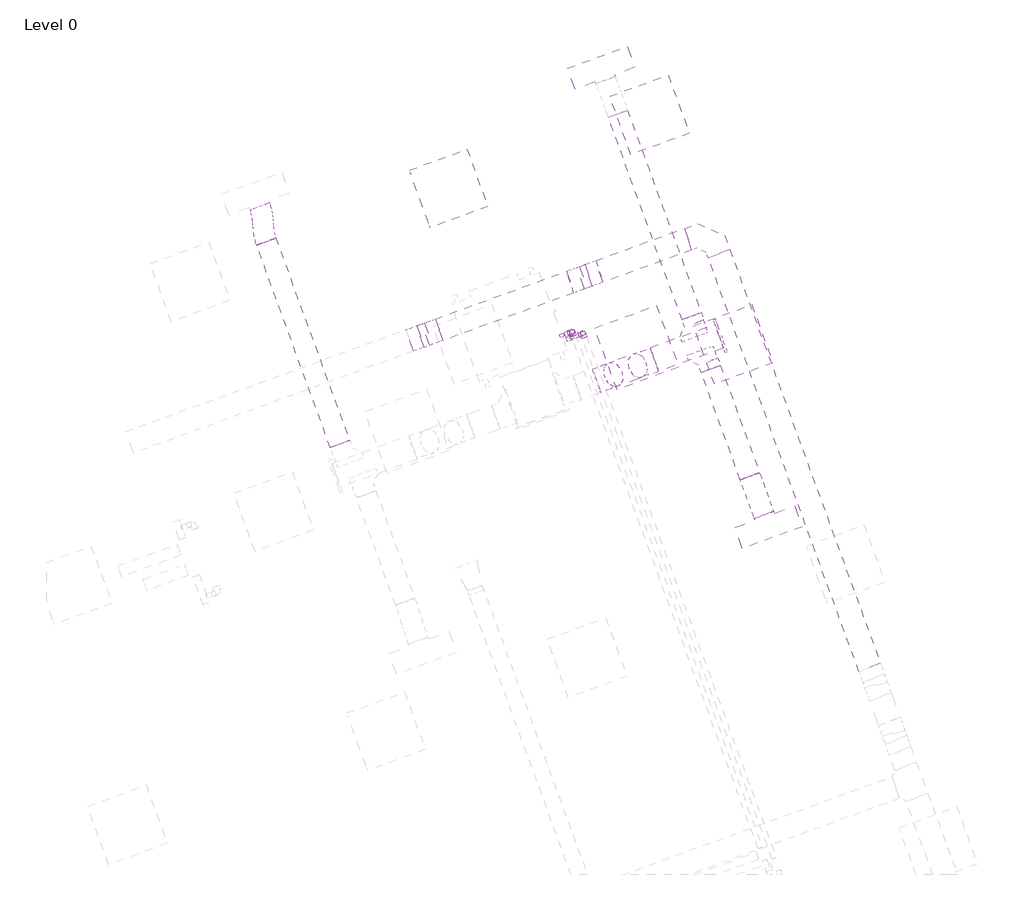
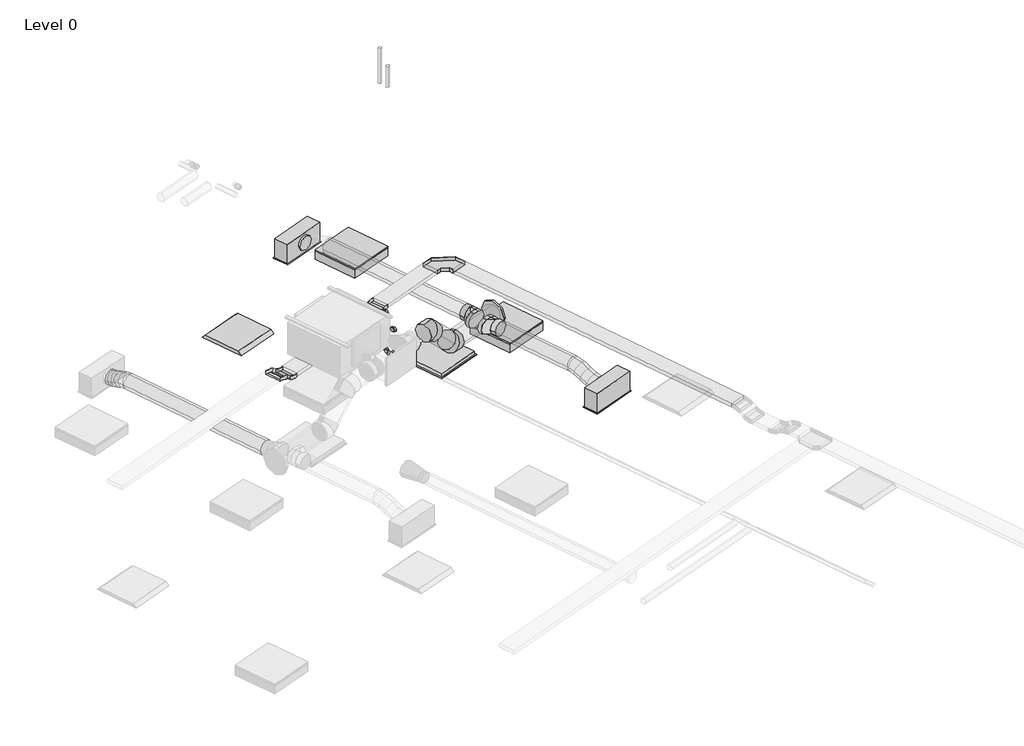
# One storey, part 33 of 34: 7 duct segments, 6 pipe fittings, 6 pipe segments, 5 cable carrier fittings, 5 cable carrier segments, 5 duct fittings, 3 air terminals, 3 light fixtures.
"""IFC4 building model written with IfcOpenShell, lengths in millimetres."""

from ifc_helpers import new_model, si_unit, point, frame, frame_2d, origin, place, context, project, spatial, polyline, circle_curve, ellipse_curve, trimmed, segment, composite_curve, outline, extrude, transform, mapped, element, save
from ifc_brep_helpers import plane_surface, cylinder_surface, advanced_brep
from components import return_grille_rectangular_hosted_standard_7b12617c, supply_diffuser_with_plenum_linear_slot_hosted_8c379eed, cable_tray_horizontal_bend_standard_fd552271, cable_tray_vertical_inside_bend_standard_9a66f55b, cable_tray_vertical_outside_bend_standard_4df2047e, dw144_round_blank_end_standard_e3d0b58b, dw144_round_segmented_bend_slip_joint_standard_636bd9c1, dw144_round_shoe_branch_slip_joint1_standard_2_15a2edd8, light_fixture_b730b5ca, troffer_light_2x2_parabolic_2_x2_2_lamp_120v_6a063ff3, elbow_threaded_gmi_standard_b4aa7741, socket_reducing_threaded_gmi_standard_0a4076b8

model = new_model("IFC4")

# Units and contexts
model_context = context("Model", 3, world=origin())
ifc_project = project(units=[si_unit("LENGTHUNIT", "METRE", prefix="MILLI")], contexts=[model_context])

# Site, building, storey
site = spatial("IfcSite", under=ifc_project)
building = spatial("IfcBuilding", under=site)
storey = spatial("IfcBuildingStorey", under=building, Name="Level 0", Elevation=0.0)

# Air terminals
placement = place(None, origin())
return_grille_rectangular_hosted_standard_shape = return_grille_rectangular_hosted_standard_7b12617c(model_context)
element("IfcAirTerminal", 1, ObjectType="Return Grille - Rectangular - Hosted : Standard", at=placement, inside=storey, context=model_context, shape_type="MappedRepresentation", body=[
    mapped(return_grille_rectangular_hosted_standard_shape, transform((59670.7999959, 22099.2481143, 2800.0), x_axis=(0.939692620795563, 0.34202014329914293, 0.0), y_axis=(0.34202014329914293, -0.939692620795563, 0.0), z_axis=(0.0, 0.0, -1.0))),
])
supply_diffuser_with_plenum_linear_slot_hosted_shape = supply_diffuser_with_plenum_linear_slot_hosted_8c379eed(model_context)
element("IfcAirTerminal", 2, ObjectType="Supply Diffuser with Plenum - Linear Slot - Hosted : 24\" x 8\"-200 In Inlet  4-Slot", at=placement, inside=storey, context=model_context, shape_type="MappedRepresentation", body=[
    mapped(supply_diffuser_with_plenum_linear_slot_hosted_shape, transform((59322.1555846, 24845.631912, 2800.0), x_axis=(-0.9396926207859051, -0.3420201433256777, 0.0), y_axis=(-0.3420201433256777, 0.9396926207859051, 0.0), z_axis=(0.0, 0.0, -1.0))),
])
element("IfcAirTerminal", 3, ObjectType="Supply Diffuser with Plenum - Linear Slot - Hosted : 24\" x 8\"-200 In Inlet  4-Slot", at=placement, inside=storey, context=model_context, shape_type="MappedRepresentation", body=[
    mapped(supply_diffuser_with_plenum_linear_slot_hosted_shape, transform((60963.8522726, 20335.1073322, 2800.0), x_axis=(0.939692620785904, 0.342020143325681, 0.0), y_axis=(0.342020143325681, -0.939692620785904, 0.0), z_axis=(0.0, 0.0, -1.0))),
])

# Cable carrier fittings
cable_tray_horizontal_bend_standard_shape = cable_tray_horizontal_bend_standard_fd552271(model_context)
element("IfcCableCarrierFitting", 4, ObjectType="Cable Tray Horizontal Bend : Standard", at=placement, inside=storey, context=model_context, shape_type="MappedRepresentation", body=[
    mapped(cable_tray_horizontal_bend_standard_shape, transform((60397.5181523, 23244.3261172, 3248.9627355), x_axis=(-0.3420201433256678, 0.9396926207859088, 0.0), y_axis=(-0.9396926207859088, -0.3420201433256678, 0.0), z_axis=(0.0, 0.0, 1.0))),
])
cable_tray_vertical_inside_bend_standard_shape = cable_tray_vertical_inside_bend_standard_9a66f55b(model_context)
element("IfcCableCarrierFitting", 5, ObjectType="Cable Tray Vertical Inside Bend : Standard", at=placement, inside=storey, context=model_context, shape_type="MappedRepresentation", body=[
    mapped(cable_tray_vertical_inside_bend_standard_shape, transform((59079.7468169, 22764.6965755, 3148.9627355), x_axis=(0.9396926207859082, 0.34202014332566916, 0.0), y_axis=(0.0, 0.0, 1.0), z_axis=(0.34202014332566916, -0.9396926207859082, 0.0))),
])
element("IfcCableCarrierFitting", 6, ObjectType="Cable Tray Vertical Inside Bend : Standard", at=placement, inside=storey, context=model_context, shape_type="MappedRepresentation", body=[
    mapped(cable_tray_vertical_inside_bend_standard_shape, transform((57668.2710843, 22250.9614225, 3148.9627355), x_axis=(0.8137976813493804, 0.2961981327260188, -0.4999999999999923), y_axis=(0.46984631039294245, 0.1710100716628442, 0.8660254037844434), z_axis=(0.34202014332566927, -0.9396926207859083, 0.0))),
])
cable_tray_vertical_outside_bend_standard_shape = cable_tray_vertical_outside_bend_standard_4df2047e(model_context)
element("IfcCableCarrierFitting", 7, ObjectType="Cable Tray Vertical Outside Bend : Standard", at=placement, inside=storey, context=model_context, shape_type="MappedRepresentation", body=[
    mapped(cable_tray_vertical_outside_bend_standard_shape, transform((59242.5063531, 22823.9362021, 3248.9627355), x_axis=(-0.939692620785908, -0.34202014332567, 0.0), y_axis=(0.0, 0.0, -1.0000000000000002), z_axis=(0.34202014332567, -0.939692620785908, 0.0))),
])
element("IfcCableCarrierFitting", 8, ObjectType="Cable Tray Vertical Outside Bend : Standard", at=placement, inside=storey, context=model_context, shape_type="MappedRepresentation", body=[
    mapped(cable_tray_vertical_outside_bend_standard_shape, transform((57505.5115481, 22191.721796, 3248.9627355), x_axis=(-0.8137976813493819, -0.2961981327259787, 0.5000000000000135), y_axis=(-0.46984631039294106, -0.17101007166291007, -0.866025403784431), z_axis=(0.34202014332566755, -0.9396926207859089, 0.0))),
])

# Cable carrier segments
element("IfcCableCarrierSegment", 9, ObjectType="Perforated Cable Tray", at=placement, inside=storey, context=model_context, shape_type="SweptSolid", body=[
    extrude(outline(polyline([(62063.4626623, 18996.1091889), (61852.0318226, 18919.1546567), (60373.0325165, 22982.6718536), (60584.4633562, 23059.6263859), (62063.4626623, 18996.1091889)])), frame((0.0, 0.0, 3223.9627355), z_axis=(0.0, 0.0, 1.0), x_axis=(1.0, 0.0, 0.0)), (0.0, 0.0, 1.0), 50.0),
])
element("IfcCableCarrierSegment", 10, ObjectType="Perforated Cable Tray", at=placement, inside=storey, context=model_context, shape_type="SweptSolid", body=[
    extrude(outline(polyline([(60135.8638887, 23268.811753), (60212.818421, 23057.3809133), (59343.931089, 22741.1317875), (59266.9765567, 22952.5626272), (60135.8638887, 23268.811753)])), frame((0.0, 0.0, 3223.9627355), z_axis=(0.0, 0.0, 1.0), x_axis=(1.0, 0.0, 0.0)), (0.0, 0.0, 1.0), 50.0),
])
element("IfcCableCarrierSegment", 11, ObjectType="Perforated Cable Tray", at=placement, inside=storey, context=model_context, shape_type="SweptSolid", body=[
    extrude(outline(polyline([(0.0, -225.0), (0.0, 0.0), (66.0254038, 0.0), (66.0254037, -225.0), (0.0, -225.0)])), frame((59238.2156691, 22702.6545214, 3193.8184513), z_axis=(-0.46984631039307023, -0.1710100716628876, 0.8660254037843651), x_axis=(-0.8137976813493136, -0.29619813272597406, -0.5000000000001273)), (0.0, 0.0, 1.0), 50.0),
])
element("IfcCableCarrierSegment", 12, ObjectType="Perforated Cable Tray", at=placement, inside=storey, context=model_context, shape_type="SweptSolid", body=[
    extrude(outline(polyline([(58978.322081, 22847.5009901), (59055.2766133, 22636.0701504), (57769.6958202, 22168.157008), (57692.7412879, 22379.5878476), (58978.322081, 22847.5009901)])), frame((0.0, 0.0, 3123.9627355), z_axis=(0.0, 0.0, 1.0), x_axis=(1.0, 0.0, 0.0)), (0.0, 0.0, 1.0), 50.0),
])
element("IfcCableCarrierSegment", 13, ObjectType="Perforated Cable Tray", at=placement, inside=storey, context=model_context, shape_type="SweptSolid", body=[
    extrude(outline(polyline([(0.0, -224.9999999), (0.0, 0.0), (66.0254038, 1e-07), (66.0254038, -224.9999999), (0.0, -224.9999999)])), frame((57640.4880848, 22121.1292383, 3160.8057494), z_axis=(0.4698463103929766, 0.17101007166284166, 0.8660254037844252), x_axis=(-0.8137976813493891, -0.29619813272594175, 0.5000000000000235)), (0.0, 0.0, 1.0), 50.0),
])

# Duct fittings
dw144_round_blank_end_standard_shape = dw144_round_blank_end_standard_e3d0b58b(model_context)
element("IfcDuctFitting", 14, ObjectType="DW144 Round Blank End : Standard", at=placement, inside=storey, context=model_context, shape_type="MappedRepresentation", body=[
    mapped(dw144_round_blank_end_standard_shape, transform((60480.1698786, 22212.391139, 3072.2088531), x_axis=(0.9396926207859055, 0.3420201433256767, 0.0), y_axis=(-0.3420201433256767, 0.9396926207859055, 0.0), z_axis=(0.0, 0.0, 1.0))),
])
dw144_round_segmented_bend_slip_joint_standard_shape = dw144_round_segmented_bend_slip_joint_standard_636bd9c1(model_context)
element("IfcDuctFitting", 15, ObjectType="DW144 Round Segmented Bend - Slip Joint : Standard", at=placement, inside=storey, context=model_context, shape_type="MappedRepresentation", body=[
    mapped(dw144_round_segmented_bend_slip_joint_standard_shape, transform((59747.3782824, 21945.6768101, 3072.2088531), x_axis=(0.6644630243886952, 0.24184476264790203, -0.7071067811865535), y_axis=(0.6644630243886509, 0.2418447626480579, 0.7071067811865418), z_axis=(0.3420201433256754, -0.939692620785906, 0.0))),
])
element("IfcDuctFitting", 16, ObjectType="DW144 Round Segmented Bend - Slip Joint : Standard", at=placement, inside=storey, context=model_context, shape_type="MappedRepresentation", body=[
    mapped(dw144_round_segmented_bend_slip_joint_standard_shape, transform((59373.9762464, 21809.7695836, 3469.575), x_axis=(0.9396926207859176, 0.3420201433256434, 0.0), y_axis=(0.0, 0.0, -1.0), z_axis=(-0.3420201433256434, 0.9396926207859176, 0.0))),
])
dw144_round_shoe_branch_slip_joint1_standard_2_shape = dw144_round_shoe_branch_slip_joint1_standard_2_15a2edd8(model_context)
element("IfcDuctFitting", 17, ObjectType="DW144 Round Shoe Branch - Slip Joint1 : Standard 2", at=placement, inside=storey, context=model_context, shape_type="MappedRepresentation", body=[
    mapped(dw144_round_shoe_branch_slip_joint1_standard_2_shape, transform((60261.1722773, 22265.7047523, 3072.2088531), x_axis=(-0.3420201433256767, 0.9396926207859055, 0.0), y_axis=(0.9396926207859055, 0.3420201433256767, 0.0), z_axis=(0.0, 0.0, -1.0))),
])
element("IfcDuctFitting", 18, ObjectType="DW144 Round Shoe Branch - Slip Joint1 : Standard 2", at=placement, inside=storey, context=model_context, shape_type="MappedRepresentation", body=[
    mapped(dw144_round_shoe_branch_slip_joint1_standard_2_shape, transform((60346.6773131, 22030.7815971, 3072.2088531), x_axis=(0.3420201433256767, -0.9396926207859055, 0.0), y_axis=(0.9396926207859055, 0.3420201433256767, 0.0), z_axis=(0.0, 0.0, 1.0))),
])

# Duct segments
element("IfcDuctSegment", 19, ObjectType="DW144 Segmented Bend / Shoe Branch", at=placement, inside=storey, context=model_context, shape_type="SweptSolid", body=[
    extrude(outline(composite_curve([segment(trimmed(circle_curve(frame_2d((0.0, -125.0)), 125.0), [point((-125.0, -125.0))], [point((0.0, 0.0))], False, "CARTESIAN"), True, "CONTINUOUS"), segment(trimmed(circle_curve(frame_2d((0.0, -125.0)), 125.0), [point((0.0, 0.0))], [point((125.0, -125.0))], False, "CARTESIAN"), True, "CONTINUOUS"), segment(trimmed(circle_curve(frame_2d((0.0, -125.0)), 125.0), [point((125.0, -125.0))], [point((0.0, -250.0))], False, "CARTESIAN"), True, "CONTINUOUS"), segment(trimmed(circle_curve(frame_2d((0.0, -125.0)), 125.0), [point((0.0, -250.0))], [point((-125.0, -125.0))], False, "CARTESIAN"), True, "CONTINUOUS")], self_intersect=False)), frame((59844.6866394, 21981.0941556, 2947.2088531), z_axis=(0.9396926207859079, 0.3420201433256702, 0.0), x_axis=(0.3420201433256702, -0.9396926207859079, 0.0)), (0.0, 0.0, 1.0), 676.267138),
])
element("IfcDuctSegment", 20, ObjectType="DW144 Segmented Bend / Shoe Branch", at=placement, inside=storey, context=model_context, shape_type="SweptSolid", body=[
    extrude(outline(composite_curve([segment(trimmed(circle_curve(frame_2d((0.0, 100.0)), 100.0), [point((100.0, 100.0))], [point((0.0, 0.0))], False, "CARTESIAN"), True, "CONTINUOUS"), segment(trimmed(circle_curve(frame_2d((0.0, 100.0)), 100.0), [point((0.0, 0.0))], [point((-100.0, 100.0))], False, "CARTESIAN"), True, "CONTINUOUS"), segment(trimmed(circle_curve(frame_2d((0.0, 100.0)), 100.0), [point((-100.0, 100.0))], [point((0.0, 200.0))], False, "CARTESIAN"), True, "CONTINUOUS"), segment(trimmed(circle_curve(frame_2d((0.0, 100.0)), 100.0), [point((0.0, 200.0))], [point((100.0, 100.0))], False, "CARTESIAN"), True, "CONTINUOUS")], self_intersect=False)), frame((60209.8692558, 22406.6586454, 3172.2088531), z_axis=(-0.3420201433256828, 0.9396926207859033, 0.0), x_axis=(0.9396926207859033, 0.3420201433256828, 0.0)), (0.0, 0.0, 1.0), 2117.1993191),
])
element("IfcDuctSegment", 21, ObjectType="DW144 Segmented Bend / Shoe Branch", at=placement, inside=storey, context=model_context, shape_type="SweptSolid", body=[
    extrude(outline(composite_curve([segment(trimmed(circle_curve(frame_2d((0.0, -100.0)), 100.0), [point((-99.9999999, -100.0))], [point((0.0, 0.0))], False, "CARTESIAN"), True, "CONTINUOUS"), segment(trimmed(circle_curve(frame_2d((0.0, -100.0)), 100.0), [point((0.0, 0.0))], [point((100.0, -100.0))], False, "CARTESIAN"), True, "CONTINUOUS"), segment(trimmed(circle_curve(frame_2d((0.0, -100.0)), 100.0), [point((100.0, -100.0))], [point((0.0, -200.0))], False, "CARTESIAN"), True, "CONTINUOUS"), segment(trimmed(circle_curve(frame_2d((0.0, -100.0)), 100.0), [point((0.0, -200.0))], [point((-99.9999999, -100.0))], False, "CARTESIAN"), True, "CONTINUOUS")], self_intersect=False)), frame((60782.0007844, 20834.7401896, 2972.2088531), z_axis=(-0.3420201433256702, 0.9396926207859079, 0.0), x_axis=(0.9396926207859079, 0.3420201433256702, 0.0)), (0.0, 0.0, 1.0), 1122.8006809),
])
element("IfcDuctSegment", 22, ObjectType="DW144 Segmented Bend / Shoe Branch", at=placement, inside=storey, context=model_context, shape_type="SweptSolid", body=[
    extrude(outline(composite_curve([segment(trimmed(circle_curve(frame_2d((0.0, -100.0)), 100.0), [point((-100.0, -100.0))], [point((0.0, 0.0))], False, "CARTESIAN"), True, "CONTINUOUS"), segment(trimmed(circle_curve(frame_2d((0.0, -100.0)), 100.0), [point((0.0, 0.0))], [point((99.9999999, -100.0))], False, "CARTESIAN"), True, "CONTINUOUS"), segment(trimmed(circle_curve(frame_2d((0.0, -100.0)), 100.0), [point((99.9999999, -100.0))], [point((0.0, -200.0))], False, "CARTESIAN"), True, "CONTINUOUS"), segment(trimmed(circle_curve(frame_2d((0.0, -100.0)), 100.0), [point((0.0, -200.0))], [point((-100.0, -100.0))], False, "CARTESIAN"), True, "CONTINUOUS")], self_intersect=False)), frame((56758.4236669, 21150.4351859, 2972.2088531), z_axis=(-0.3420201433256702, 0.9396926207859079, 0.0), x_axis=(0.9396926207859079, 0.3420201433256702, 0.0)), (0.0, 0.0, 1.0), 2117.1993191),
])
element("IfcDuctSegment", 23, ObjectType="DW144 Segmented Bend / Shoe Branch", at=placement, inside=storey, context=model_context, shape_type="SweptSolid", body=[
    extrude(outline(composite_curve([segment(trimmed(circle_curve(frame_2d((0.0, -125.0)), 125.0), [point((57.2076922, -236.1408113))], [point((-111.1408114, -182.2076922))], False, "CARTESIAN"), True, "CONTINUOUS"), segment(trimmed(circle_curve(frame_2d((0.0, -125.0)), 125.0), [point((-111.1408114, -182.2076922))], [point((-57.2076923, -13.8591886))], False, "CARTESIAN"), True, "CONTINUOUS"), segment(trimmed(circle_curve(frame_2d((0.0, -125.0)), 125.0), [point((-57.2076923, -13.8591886))], [point((111.1408113, -67.7923077))], False, "CARTESIAN"), True, "CONTINUOUS"), segment(trimmed(circle_curve(frame_2d((0.0, -125.0)), 125.0), [point((111.1408113, -67.7923077))], [point((57.2076922, -236.1408113))], False, "CARTESIAN"), True, "CONTINUOUS")], self_intersect=False)), frame((59678.5708833, 22038.9065459, 3185.884105), z_axis=(-0.6644630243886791, -0.2418447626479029, 0.7071067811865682), x_axis=(0.7473211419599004, -0.21503058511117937, 0.6287073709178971)), (0.0, 0.0, 1.0), 354.8538129),
])
element("IfcDuctSegment", 24, ObjectType="Flex - Round", at=placement, inside=storey, context=model_context, shape_type="AdvancedBrep", body=[
    advanced_brep(
    [(60875.9700465, 20868.9422039, 3072.2088531), (60782.0007844, 20834.7401896, 2972.2088531), (60688.0315224, 20800.5381753, 3072.2088531), (60782.0007844, 20834.7401896, 3172.2088531), (60882.0280653, 20852.2979342, 3072.2088531), (60784.3796055, 20828.2044324, 2972.2088531), (60694.0895411, 20783.8939055, 3072.2088531), (60791.7380009, 20807.9874073, 3172.2088531), (61013.7351382, 20490.4357254, 2954.4), (60919.7658761, 20456.233711, 3054.4), (60825.796614, 20422.0316967, 2954.4), (60919.7658761, 20456.233711, 2854.4), (60910.9523954, 20772.8289904, 3053.8012198), (60806.8015614, 20766.600615, 2957.9393734), (60723.0138712, 20704.4249618, 3053.8012198), (60827.1647052, 20710.6533371, 3149.6630662), (60944.8525924, 20679.6889646, 3013.3044266), (60837.9473613, 20681.0282329, 2920.7329518), (60756.9140682, 20611.284936, 3013.3044266), (60863.8192992, 20609.9456677, 3105.8759013), (60978.7527894, 20586.5489389, 2972.8076333), (60874.6019553, 20580.3205635, 2876.9457869), (60790.8142652, 20518.1449102, 2972.8076333), (60894.9650992, 20524.3732856, 3068.6694797), (61007.6771194, 20507.0799951, 2954.4), (60910.0286597, 20482.9864933, 2854.4), (60819.7385953, 20438.6759664, 2954.4), (60917.387055, 20462.7694682, 3054.4)],
    [
        (0, 1, circle_curve(frame((60782.0007844, 20834.7401896, 3072.2088531), z_axis=(-0.3420201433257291, 0.9396926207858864, 0.0), x_axis=(0.9396926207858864, 0.3420201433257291, 0.0)), 100.0)),
        (1, 2, circle_curve(frame((60782.0007844, 20834.7401896, 3072.2088531), z_axis=(-0.3420201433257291, 0.9396926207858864, 0.0), x_axis=(0.9396926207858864, 0.3420201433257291, 0.0)), 100.0)),
        (2, 3, circle_curve(frame((60782.0007844, 20834.7401896, 3072.2088531), z_axis=(-0.3420201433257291, 0.9396926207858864, 0.0), x_axis=(0.9396926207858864, 0.3420201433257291, 0.0)), 100.0)),
        (3, 0, circle_curve(frame((60782.0007844, 20834.7401896, 3072.2088531), z_axis=(-0.3420201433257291, 0.9396926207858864, 0.0), x_axis=(0.9396926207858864, 0.3420201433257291, 0.0)), 100.0)),
        (0, 4),
        (4, 5, ellipse_curve(frame((60788.0588032, 20818.0959199, 3072.2088531), z_axis=(-0.34005825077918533, 0.9343023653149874, 0.1069554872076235), x_axis=(-0.03658093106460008, 0.10050528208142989, -0.9942638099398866)), 100.5769284, 100.0)),
        (5, 1),
        (5, 6, ellipse_curve(frame((60788.0588032, 20818.0959199, 3072.2088531), z_axis=(-0.34005825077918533, 0.9343023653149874, 0.1069554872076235), x_axis=(-0.03658093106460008, 0.10050528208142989, -0.9942638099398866)), 100.5769284, 100.0)),
        (6, 2),
        (6, 7, ellipse_curve(frame((60788.0588032, 20818.0959199, 3072.2088531), z_axis=(-0.34005825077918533, 0.9343023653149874, 0.1069554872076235), x_axis=(-0.03658093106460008, 0.10050528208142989, -0.9942638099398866)), 100.5769284, 100.0)),
        (7, 3),
        (7, 4, ellipse_curve(frame((60788.0588032, 20818.0959199, 3072.2088531), z_axis=(-0.34005825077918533, 0.9343023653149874, 0.1069554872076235), x_axis=(-0.03658093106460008, 0.10050528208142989, -0.9942638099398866)), 100.5769284, 100.0)),
        (8, 9, circle_curve(frame((60919.7658761, 20456.233711, 2954.4), z_axis=(0.3420201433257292, -0.9396926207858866, 0.0), x_axis=(0.9396926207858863, 0.34202014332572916, 0.0)), 100.0)),
        (9, 10, circle_curve(frame((60919.7658761, 20456.233711, 2954.4), z_axis=(0.3420201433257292, -0.9396926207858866, 0.0), x_axis=(0.9396926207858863, 0.34202014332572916, 0.0)), 100.0)),
        (10, 11, circle_curve(frame((60919.7658761, 20456.233711, 2954.4), z_axis=(0.3420201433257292, -0.9396926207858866, 0.0), x_axis=(0.9396926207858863, 0.34202014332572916, 0.0)), 100.0)),
        (11, 8, circle_curve(frame((60919.7658761, 20456.233711, 2954.4), z_axis=(0.3420201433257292, -0.9396926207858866, 0.0), x_axis=(0.9396926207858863, 0.34202014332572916, 0.0)), 100.0)),
        (4, 12),
        (12, 13, ellipse_curve(frame((60816.9831333, 20738.6269761, 3053.8012198), z_axis=(-0.32663313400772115, 0.897417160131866, 0.2965691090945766), x_axis=(-0.10143260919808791, 0.2786838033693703, -0.9550113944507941)), 100.3776991, 100.0)),
        (13, 5),
        (13, 14, ellipse_curve(frame((60816.9831333, 20738.6269761, 3053.8012198), z_axis=(-0.32663313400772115, 0.897417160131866, 0.2965691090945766), x_axis=(-0.10143260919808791, 0.2786838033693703, -0.9550113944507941)), 100.3776991, 100.0)),
        (14, 6),
        (14, 15, ellipse_curve(frame((60816.9831333, 20738.6269761, 3053.8012198), z_axis=(-0.32663313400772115, 0.897417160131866, 0.2965691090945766), x_axis=(-0.10143260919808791, 0.2786838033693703, -0.9550113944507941)), 100.3776991, 100.0)),
        (15, 7),
        (15, 12, ellipse_curve(frame((60816.9831333, 20738.6269761, 3053.8012198), z_axis=(-0.32663313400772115, 0.897417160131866, 0.2965691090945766), x_axis=(-0.10143260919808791, 0.2786838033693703, -0.9550113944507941)), 100.3776991, 100.0)),
        (12, 16),
        (16, 17, circle_curve(frame((60850.8833303, 20645.4869503, 3013.3044266), z_axis=(-0.31661309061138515, 0.8698873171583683, 0.3782224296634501), x_axis=(0.939692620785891, 0.34202014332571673, 0.0)), 100.0)),
        (17, 13),
        (17, 18, circle_curve(frame((60850.8833303, 20645.4869503, 3013.3044266), z_axis=(-0.31661309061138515, 0.8698873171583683, 0.3782224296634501), x_axis=(0.939692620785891, 0.34202014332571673, 0.0)), 100.0)),
        (18, 14),
        (18, 19, circle_curve(frame((60850.8833303, 20645.4869503, 3013.3044266), z_axis=(-0.31661309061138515, 0.8698873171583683, 0.3782224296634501), x_axis=(0.939692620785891, 0.34202014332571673, 0.0)), 100.0)),
        (19, 15),
        (19, 16, circle_curve(frame((60850.8833303, 20645.4869503, 3013.3044266), z_axis=(-0.31661309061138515, 0.8698873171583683, 0.3782224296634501), x_axis=(0.939692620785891, 0.34202014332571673, 0.0)), 100.0)),
        (16, 20),
        (20, 21, ellipse_curve(frame((60884.7835273, 20552.3469245, 2972.8076333), z_axis=(-0.3266331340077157, 0.897417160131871, 0.29656910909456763), x_axis=(0.10143260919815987, -0.2786838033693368, 0.9550113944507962)), 100.3776991, 100.0)),
        (21, 17),
        (21, 22, ellipse_curve(frame((60884.7835273, 20552.3469245, 2972.8076333), z_axis=(-0.3266331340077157, 0.897417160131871, 0.29656910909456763), x_axis=(0.10143260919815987, -0.2786838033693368, 0.9550113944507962)), 100.3776991, 100.0)),
        (22, 18),
        (22, 23, ellipse_curve(frame((60884.7835273, 20552.3469245, 2972.8076333), z_axis=(-0.3266331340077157, 0.897417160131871, 0.29656910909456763), x_axis=(0.10143260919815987, -0.2786838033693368, 0.9550113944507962)), 100.3776991, 100.0)),
        (23, 19),
        (23, 20, ellipse_curve(frame((60884.7835273, 20552.3469245, 2972.8076333), z_axis=(-0.3266331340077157, 0.897417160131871, 0.29656910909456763), x_axis=(0.10143260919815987, -0.2786838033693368, 0.9550113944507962)), 100.3776991, 100.0)),
        (20, 24),
        (24, 25, ellipse_curve(frame((60913.7078574, 20472.8779808, 2954.4), z_axis=(-0.3400582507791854, 0.9343023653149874, 0.10695548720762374), x_axis=(0.03658093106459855, -0.10050528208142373, 0.9942638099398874)), 100.5769284, 100.0)),
        (25, 21),
        (25, 26, ellipse_curve(frame((60913.7078574, 20472.8779808, 2954.4), z_axis=(-0.3400582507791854, 0.9343023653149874, 0.10695548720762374), x_axis=(0.03658093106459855, -0.10050528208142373, 0.9942638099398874)), 100.5769284, 100.0)),
        (26, 22),
        (26, 27, ellipse_curve(frame((60913.7078574, 20472.8779808, 2954.4), z_axis=(-0.3400582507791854, 0.9343023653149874, 0.10695548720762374), x_axis=(0.03658093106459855, -0.10050528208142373, 0.9942638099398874)), 100.5769284, 100.0)),
        (27, 23),
        (27, 24, ellipse_curve(frame((60913.7078574, 20472.8779808, 2954.4), z_axis=(-0.3400582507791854, 0.9343023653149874, 0.10695548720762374), x_axis=(0.03658093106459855, -0.10050528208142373, 0.9942638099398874)), 100.5769284, 100.0)),
        (24, 8),
        (11, 25),
        (10, 26),
        (9, 27),
    ],
    [
        plane_surface(frame((60782.0007844, 20834.7401896, 2972.2088531), z_axis=(-0.3420201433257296, 0.9396926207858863, 0.0), x_axis=(0.9396926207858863, 0.3420201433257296, 0.0))),
        cylinder_surface(frame((60782.0007844, 20834.7401896, 3072.2088531), z_axis=(-0.3420201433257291, 0.9396926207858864, 0.0), x_axis=(0.9396926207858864, 0.3420201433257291, 0.0)), 100.0),
        plane_surface(frame((60919.7658761, 20456.233711, 2854.4), z_axis=(0.3420201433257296, -0.9396926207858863, 0.0), x_axis=(0.9396926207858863, 0.3420201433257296, 0.0))),
        cylinder_surface(frame((60788.0588032, 20818.0959199, 3072.2088531), z_axis=(-0.3341950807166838, 0.9181934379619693, 0.21268394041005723), x_axis=(0.9396926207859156, 0.342020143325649, 0.0)), 100.0),
        cylinder_surface(frame((60816.9831333, 20738.6269761, 3053.8012198), z_axis=(-0.31661309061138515, 0.8698873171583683, 0.3782224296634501), x_axis=(0.939692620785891, 0.34202014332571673, 0.0)), 100.0),
        cylinder_surface(frame((60850.8833303, 20645.4869503, 3013.3044266), z_axis=(-0.3166130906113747, 0.8698873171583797, 0.37822242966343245), x_axis=(0.9396926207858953, 0.3420201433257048, 0.0)), 100.0),
        cylinder_surface(frame((60884.7835273, 20552.3469245, 2972.8076333), z_axis=(-0.3341950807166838, 0.9181934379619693, 0.21268394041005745), x_axis=(0.9396926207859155, 0.3420201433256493, 0.0)), 100.0),
        cylinder_surface(frame((60913.7078574, 20472.8779808, 2954.4), z_axis=(-0.34202014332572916, 0.9396926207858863, 0.0), x_axis=(0.9396926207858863, 0.34202014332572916, 0.0)), 100.0),
    ],
    [
        (0, [[1, 2, 3, 4]]),
        (1, [[-1, 5, 6, 7]]),
        (1, [[-2, -7, 8, 9]]),
        (1, [[-3, -9, 10, 11]]),
        (1, [[-4, -11, 12, -5]]),
        (2, [[13, 14, 15, 16]]),
        (3, [[-6, 17, 18, 19]]),
        (3, [[-8, -19, 20, 21]]),
        (3, [[-10, -21, 22, 23]]),
        (3, [[-12, -23, 24, -17]]),
        (4, [[-18, 25, 26, 27]]),
        (4, [[-20, -27, 28, 29]]),
        (4, [[-22, -29, 30, 31]]),
        (4, [[-24, -31, 32, -25]]),
        (5, [[-26, 33, 34, 35]]),
        (5, [[-28, -35, 36, 37]]),
        (5, [[-30, -37, 38, 39]]),
        (5, [[-32, -39, 40, -33]]),
        (6, [[-34, 41, 42, 43]]),
        (6, [[-36, -43, 44, 45]]),
        (6, [[-38, -45, 46, 47]]),
        (6, [[-40, -47, 48, -41]]),
        (7, [[-42, 49, -16, 50]]),
        (7, [[-44, -50, -15, 51]]),
        (7, [[-46, -51, -14, 52]]),
        (7, [[-48, -52, -13, -49]]),
    ],
),
])
element("IfcDuctSegment", 25, ObjectType="Flex - Round", at=placement, inside=storey, context=model_context, shape_type="AdvancedBrep", body=[
    advanced_brep(
    [(55940.3295902, 23105.7497485, 3072.2088531), (56034.2988523, 23139.9517628, 2972.2088531), (56128.2681143, 23174.1537771, 3072.2088531), (56034.2988523, 23139.9517628, 3172.2088531), (55932.6991352, 23126.7142514, 3072.2088531), (56032.3145452, 23145.4036018, 2972.2088531), (56124.5004429, 23184.5053694, 3072.2088531), (56024.8850329, 23165.816019, 3172.2088531), (55878.3848809, 23455.0293673, 2954.4), (55972.354143, 23489.2313817, 3054.4), (56066.3234051, 23523.433396, 2954.4), (55972.354143, 23489.2313817, 2854.4), (55917.3295771, 23190.9348996, 3057.7411781), (56023.8255964, 23180.8740941, 2964.2180345), (56113.8382189, 23229.0567437, 3062.1722867), (56007.3421996, 23239.1175493, 3155.6954303), (55907.3100581, 23266.6974316, 3026.0114711), (56016.126005, 23239.0945077, 2939.8350497), (56105.4058666, 23292.8179241, 3035.4688025), (55996.5899197, 23320.4208481, 3121.645224), (55901.2471286, 23336.3652203, 2991.1400506), (56010.0630756, 23308.7622964, 2904.9636291), (56099.3429372, 23362.4857128, 3000.597382), (55990.5269903, 23390.0886367, 3086.7738035), (55892.8147764, 23400.1264007, 2964.4365665), (55999.3107957, 23390.0655952, 2870.9134228), (56089.3234182, 23438.2482449, 2968.867675), (55982.8273989, 23448.3090504, 3062.3908187), (55882.1525524, 23444.6777751, 2954.4), (55981.7679624, 23463.3671255, 2854.4), (56073.9538601, 23502.4688931, 2954.4), (55974.3384501, 23483.7795427, 3054.4)],
    [
        (0, 1, circle_curve(frame((56034.2988523, 23139.9517628, 3072.2088531), z_axis=(0.34202014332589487, -0.9396926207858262, 0.0), x_axis=(-0.9396926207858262, -0.34202014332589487, 0.0)), 100.0)),
        (1, 2, circle_curve(frame((56034.2988523, 23139.9517628, 3072.2088531), z_axis=(0.34202014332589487, -0.9396926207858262, 0.0), x_axis=(-0.9396926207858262, -0.34202014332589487, 0.0)), 100.0)),
        (2, 3, circle_curve(frame((56034.2988523, 23139.9517628, 3072.2088531), z_axis=(0.34202014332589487, -0.9396926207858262, 0.0), x_axis=(-0.9396926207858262, -0.34202014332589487, 0.0)), 100.0)),
        (3, 0, circle_curve(frame((56034.2988523, 23139.9517628, 3072.2088531), z_axis=(0.34202014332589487, -0.9396926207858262, 0.0), x_axis=(-0.9396926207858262, -0.34202014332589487, 0.0)), 100.0)),
        (0, 4),
        (4, 5, ellipse_curve(frame((56028.599789, 23155.6098104, 3072.2088531), z_axis=(0.2868145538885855, -0.9519007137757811, 0.10780743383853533), x_axis=(0.4718263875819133, 0.04242446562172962, -0.8806702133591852)), 100.746488, 100.0)),
        (5, 1),
        (5, 6, ellipse_curve(frame((56028.599789, 23155.6098104, 3072.2088531), z_axis=(0.2868145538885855, -0.9519007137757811, 0.10780743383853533), x_axis=(0.4718263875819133, 0.04242446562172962, -0.8806702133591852)), 100.746488, 100.0)),
        (6, 2),
        (6, 7, ellipse_curve(frame((56028.599789, 23155.6098104, 3072.2088531), z_axis=(0.2868145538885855, -0.9519007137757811, 0.10780743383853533), x_axis=(0.4718263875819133, 0.04242446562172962, -0.8806702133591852)), 100.746488, 100.0)),
        (7, 3),
        (7, 4, ellipse_curve(frame((56028.599789, 23155.6098104, 3072.2088531), z_axis=(0.2868145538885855, -0.9519007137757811, 0.10780743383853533), x_axis=(0.4718263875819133, 0.04242446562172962, -0.8806702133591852)), 100.746488, 100.0)),
        (8, 9, circle_curve(frame((55972.354143, 23489.2313817, 2954.4), z_axis=(-0.34202014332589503, 0.9396926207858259, 0.0), x_axis=(-0.9396926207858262, -0.3420201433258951, 0.0)), 100.0)),
        (9, 10, circle_curve(frame((55972.354143, 23489.2313817, 2954.4), z_axis=(-0.34202014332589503, 0.9396926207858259, 0.0), x_axis=(-0.9396926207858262, -0.3420201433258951, 0.0)), 100.0)),
        (10, 11, circle_curve(frame((55972.354143, 23489.2313817, 2954.4), z_axis=(-0.34202014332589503, 0.9396926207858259, 0.0), x_axis=(-0.9396926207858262, -0.3420201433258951, 0.0)), 100.0)),
        (11, 8, circle_curve(frame((55972.354143, 23489.2313817, 2954.4), z_axis=(-0.34202014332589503, 0.9396926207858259, 0.0), x_axis=(-0.9396926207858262, -0.3420201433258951, 0.0)), 100.0)),
        (4, 12),
        (12, 13, ellipse_curve(frame((56015.583898, 23209.9958217, 3059.9567324), z_axis=(0.1751260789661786, -0.9376352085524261, 0.30028498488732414), x_axis=(0.5236540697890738, -0.1695730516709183, -0.8348840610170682)), 100.5188435, 100.0)),
        (13, 5),
        (13, 14, ellipse_curve(frame((56015.583898, 23209.9958217, 3059.9567324), z_axis=(0.1751260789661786, -0.9376352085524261, 0.30028498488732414), x_axis=(0.5236540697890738, -0.1695730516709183, -0.8348840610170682)), 100.5188435, 100.0)),
        (14, 6),
        (14, 15, ellipse_curve(frame((56015.583898, 23209.9958217, 3059.9567324), z_axis=(0.1751260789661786, -0.9376352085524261, 0.30028498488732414), x_axis=(0.5236540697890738, -0.1695730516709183, -0.8348840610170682)), 100.5188435, 100.0)),
        (15, 7),
        (15, 12, ellipse_curve(frame((56015.583898, 23209.9958217, 3059.9567324), z_axis=(0.1751260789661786, -0.9376352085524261, 0.30028498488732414), x_axis=(0.5236540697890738, -0.1695730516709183, -0.8348840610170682)), 100.5188435, 100.0)),
        (12, 16),
        (16, 17, ellipse_curve(frame((56006.3579624, 23279.7576779, 3030.7401368), z_axis=(0.09941622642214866, -0.9042889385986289, 0.4151842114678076), x_axis=(0.5431382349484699, -0.30029372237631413, -0.7841074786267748)), 100.0802707, 100.0)),
        (17, 13),
        (17, 18, ellipse_curve(frame((56006.3579624, 23279.7576779, 3030.7401368), z_axis=(0.09941622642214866, -0.9042889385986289, 0.4151842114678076), x_axis=(0.5431382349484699, -0.30029372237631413, -0.7841074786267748)), 100.0802707, 100.0)),
        (18, 14),
        (18, 19, ellipse_curve(frame((56006.3579624, 23279.7576779, 3030.7401368), z_axis=(0.09941622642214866, -0.9042889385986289, 0.4151842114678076), x_axis=(0.5431382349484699, -0.30029372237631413, -0.7841074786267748)), 100.0802707, 100.0)),
        (19, 15),
        (19, 16, ellipse_curve(frame((56006.3579624, 23279.7576779, 3030.7401368), z_axis=(0.09941622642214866, -0.9042889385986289, 0.4151842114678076), x_axis=(0.5431382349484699, -0.30029372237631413, -0.7841074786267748)), 100.0802707, 100.0)),
        (16, 20),
        (20, 21, ellipse_curve(frame((56000.2950329, 23349.4254666, 2995.8687163), z_axis=(0.09941622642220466, -0.9042889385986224, 0.4151842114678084), x_axis=(-0.543138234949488, 0.3002937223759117, 0.7841074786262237)), 100.0802707, 100.0)),
        (21, 17),
        (21, 22, ellipse_curve(frame((56000.2950329, 23349.4254666, 2995.8687163), z_axis=(0.09941622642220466, -0.9042889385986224, 0.4151842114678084), x_axis=(-0.543138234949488, 0.3002937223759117, 0.7841074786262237)), 100.0802707, 100.0)),
        (22, 18),
        (22, 23, ellipse_curve(frame((56000.2950329, 23349.4254666, 2995.8687163), z_axis=(0.09941622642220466, -0.9042889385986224, 0.4151842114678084), x_axis=(-0.543138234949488, 0.3002937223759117, 0.7841074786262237)), 100.0802707, 100.0)),
        (23, 19),
        (23, 20, ellipse_curve(frame((56000.2950329, 23349.4254666, 2995.8687163), z_axis=(0.09941622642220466, -0.9042889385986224, 0.4151842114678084), x_axis=(-0.543138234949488, 0.3002937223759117, 0.7841074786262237)), 100.0802707, 100.0)),
        (20, 24),
        (24, 25, ellipse_curve(frame((55991.0690973, 23419.1873228, 2966.6521207), z_axis=(0.1751260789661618, -0.93763520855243, 0.3002849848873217), x_axis=(-0.5236540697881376, 0.16957305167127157, 0.8348840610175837)), 100.5188435, 100.0)),
        (25, 21),
        (25, 26, ellipse_curve(frame((55991.0690973, 23419.1873228, 2966.6521207), z_axis=(0.1751260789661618, -0.93763520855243, 0.3002849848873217), x_axis=(-0.5236540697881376, 0.16957305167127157, 0.8348840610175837)), 100.5188435, 100.0)),
        (26, 22),
        (26, 27, ellipse_curve(frame((55991.0690973, 23419.1873228, 2966.6521207), z_axis=(0.1751260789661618, -0.93763520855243, 0.3002849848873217), x_axis=(-0.5236540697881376, 0.16957305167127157, 0.8348840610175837)), 100.5188435, 100.0)),
        (27, 23),
        (27, 24, ellipse_curve(frame((55991.0690973, 23419.1873228, 2966.6521207), z_axis=(0.1751260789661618, -0.93763520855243, 0.3002849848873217), x_axis=(-0.5236540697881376, 0.16957305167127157, 0.8348840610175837)), 100.5188435, 100.0)),
        (24, 28),
        (28, 29, ellipse_curve(frame((55978.0532063, 23473.5733341, 2954.4), z_axis=(0.28681455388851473, -0.9519007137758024, 0.10780743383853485), x_axis=(-0.4718263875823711, -0.042424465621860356, 0.8806702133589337)), 100.746488, 100.0)),
        (29, 25),
        (29, 30, ellipse_curve(frame((55978.0532063, 23473.5733341, 2954.4), z_axis=(0.28681455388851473, -0.9519007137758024, 0.10780743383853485), x_axis=(-0.4718263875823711, -0.042424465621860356, 0.8806702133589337)), 100.746488, 100.0)),
        (30, 26),
        (30, 31, ellipse_curve(frame((55978.0532063, 23473.5733341, 2954.4), z_axis=(0.28681455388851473, -0.9519007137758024, 0.10780743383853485), x_axis=(-0.4718263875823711, -0.042424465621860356, 0.8806702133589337)), 100.746488, 100.0)),
        (31, 27),
        (31, 28, ellipse_curve(frame((55978.0532063, 23473.5733341, 2954.4), z_axis=(0.28681455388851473, -0.9519007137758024, 0.10780743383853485), x_axis=(-0.4718263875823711, -0.042424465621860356, 0.8806702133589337)), 100.746488, 100.0)),
        (28, 8),
        (11, 29),
        (10, 30),
        (9, 31),
    ],
    [
        plane_surface(frame((56034.2988523, 23139.9517628, 3172.2088531), z_axis=(0.3420201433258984, -0.9396926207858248, 0.0), x_axis=(0.9396926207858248, 0.3420201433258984, 0.0))),
        cylinder_surface(frame((56034.2988523, 23139.9517628, 3072.2088531), z_axis=(0.34202014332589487, -0.9396926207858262, 0.0), x_axis=(-0.9396926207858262, -0.34202014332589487, 0.0)), 100.0),
        plane_surface(frame((55972.354143, 23489.2313817, 3054.4), z_axis=(-0.3420201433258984, 0.9396926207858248, 0.0), x_axis=(0.9396926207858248, 0.3420201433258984, 0.0))),
        cylinder_surface(frame((56028.599789, 23155.6098104, 3072.2088531), z_axis=(0.2273586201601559, -0.9500024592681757, 0.21401725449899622), x_axis=(-0.9718455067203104, -0.23530883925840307, -0.012085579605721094)), 100.0),
        cylinder_surface(frame((56015.583898, 23209.9958217, 3059.9567324), z_axis=(0.12108565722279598, -0.9155884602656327, 0.3834527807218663), x_axis=(-0.9882405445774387, -0.1475288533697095, -0.04019780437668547)), 100.0),
        cylinder_surface(frame((56006.3579624, 23279.7576779, 3030.7401368), z_axis=(0.07758731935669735, -0.89153882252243, 0.4462496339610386), x_axis=(-0.9919133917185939, -0.11412067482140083, -0.055536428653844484)), 100.0),
        cylinder_surface(frame((56000.2950329, 23349.4254666, 2995.8687163), z_axis=(0.12108565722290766, -0.9155884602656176, 0.38345278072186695), x_axis=(-0.9882405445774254, -0.14752885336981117, -0.04019780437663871)), 100.0),
        cylinder_surface(frame((55991.0690973, 23419.1873228, 2966.6521207), z_axis=(0.22735862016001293, -0.9500024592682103, 0.2140172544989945), x_axis=(-0.9718455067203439, -0.2353088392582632, -0.012085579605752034)), 100.0),
        cylinder_surface(frame((55978.0532063, 23473.5733341, 2954.4), z_axis=(0.3420201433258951, -0.9396926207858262, 0.0), x_axis=(-0.9396926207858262, -0.3420201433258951, 0.0)), 100.0),
    ],
    [
        (0, [[1, 2, 3, 4]]),
        (1, [[-1, 5, 6, 7]]),
        (1, [[-2, -7, 8, 9]]),
        (1, [[-3, -9, 10, 11]]),
        (1, [[-4, -11, 12, -5]]),
        (2, [[13, 14, 15, 16]]),
        (3, [[-6, 17, 18, 19]]),
        (3, [[-8, -19, 20, 21]]),
        (3, [[-10, -21, 22, 23]]),
        (3, [[-12, -23, 24, -17]]),
        (4, [[-18, 25, 26, 27]]),
        (4, [[-20, -27, 28, 29]]),
        (4, [[-22, -29, 30, 31]]),
        (4, [[-24, -31, 32, -25]]),
        (5, [[-26, 33, 34, 35]]),
        (5, [[-28, -35, 36, 37]]),
        (5, [[-30, -37, 38, 39]]),
        (5, [[-32, -39, 40, -33]]),
        (6, [[-34, 41, 42, 43]]),
        (6, [[-36, -43, 44, 45]]),
        (6, [[-38, -45, 46, 47]]),
        (6, [[-40, -47, 48, -41]]),
        (7, [[-42, 49, 50, 51]]),
        (7, [[-44, -51, 52, 53]]),
        (7, [[-46, -53, 54, 55]]),
        (7, [[-48, -55, 56, -49]]),
        (8, [[-50, 57, -16, 58]]),
        (8, [[-52, -58, -15, 59]]),
        (8, [[-54, -59, -14, 60]]),
        (8, [[-56, -60, -13, -57]]),
    ],
),
])

# Light fixtures
light_fixture_shape = light_fixture_b730b5ca(model_context)
element("IfcLightFixture", 26, ObjectType="ELEKTRA EM Recessed Lighting Fixture : 24\" x 24\" - 230", at=placement, inside=storey, context=model_context, shape_type="MappedRepresentation", body=[
    mapped(light_fixture_shape, transform((57645.6248068, 23277.6646168, 2800.0), x_axis=(0.9396926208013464, 0.34202014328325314, 0.0), y_axis=(0.34202014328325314, -0.9396926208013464, 0.0), z_axis=(0.0, 0.0, -1.0))),
])
troffer_light_2x2_parabolic_2_x2_2_lamp_120v_shape = troffer_light_2x2_parabolic_2_x2_2_lamp_120v_6a063ff3(model_context)
element("IfcLightFixture", 27, ObjectType="Troffer Light - 2x2 Parabolic : 2'x2'(2 Lamp) - 120V", at=placement, inside=storey, context=model_context, shape_type="MappedRepresentation", body=[
    mapped(troffer_light_2x2_parabolic_2_x2_2_lamp_120v_shape, transform((59900.8870967, 24098.5129607, 2800.0), x_axis=(0.9396926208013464, 0.34202014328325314, 0.0), y_axis=(0.34202014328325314, -0.9396926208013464, 0.0), z_axis=(0.0, 0.0, -1.0))),
])
element("IfcLightFixture", 28, ObjectType="Troffer Light - 2x2 Parabolic : 2'x2'(2 Lamp) - 120V", at=placement, inside=storey, context=model_context, shape_type="MappedRepresentation", body=[
    mapped(troffer_light_2x2_parabolic_2_x2_2_lamp_120v_shape, transform((60721.7354406, 21843.2506708, 2800.0), x_axis=(0.9396926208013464, 0.34202014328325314, 0.0), y_axis=(0.34202014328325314, -0.9396926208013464, 0.0), z_axis=(0.0, 0.0, -1.0))),
])

# Pipe fittings
elbow_threaded_gmi_standard_shape = elbow_threaded_gmi_standard_b4aa7741(model_context)
element("IfcPipeFitting", 29, ObjectType="Elbow - Threaded - GMI : Standard", at=placement, inside=storey, context=model_context, shape_type="MappedRepresentation", body=[
    mapped(elbow_threaded_gmi_standard_shape, transform((59037.2475079, 22254.3390863, 3000.0), x_axis=(-0.3420201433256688, 0.9396926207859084, 0.0), y_axis=(0.0, 0.0, 1.0), z_axis=(0.9396926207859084, 0.3420201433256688, 0.0))),
])
element("IfcPipeFitting", 30, ObjectType="Elbow - Threaded - GMI : Standard", at=placement, inside=storey, context=model_context, shape_type="MappedRepresentation", body=[
    mapped(elbow_threaded_gmi_standard_shape, transform((59037.2475079, 22254.3390863, 3596.575), x_axis=(0.9396926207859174, 0.3420201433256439, 0.0), y_axis=(0.0, 0.0, -1.0), z_axis=(-0.3420201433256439, 0.9396926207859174, 0.0))),
])
element("IfcPipeFitting", 31, ObjectType="Elbow - Threaded - GMI : Standard", at=placement, inside=storey, context=model_context, shape_type="MappedRepresentation", body=[
    mapped(elbow_threaded_gmi_standard_shape, transform((59142.7353246, 22238.6732807, 2925.0), x_axis=(-0.34202014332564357, 0.9396926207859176, 0.0), y_axis=(0.0, 0.0, 1.0000000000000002), z_axis=(0.9396926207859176, 0.34202014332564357, 0.0))),
])
element("IfcPipeFitting", 32, ObjectType="Elbow - Threaded - GMI : Standard", at=placement, inside=storey, context=model_context, shape_type="MappedRepresentation", body=[
    mapped(elbow_threaded_gmi_standard_shape, transform((59142.7353246, 22238.6732807, 3317.175), x_axis=(0.9396926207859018, 0.342020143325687, 0.0), y_axis=(0.0, 0.0, -1.0), z_axis=(-0.342020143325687, 0.9396926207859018, 0.0))),
])
socket_reducing_threaded_gmi_standard_shape = socket_reducing_threaded_gmi_standard_0a4076b8(model_context)
element("IfcPipeFitting", 33, ObjectType="Socket Reducing - Threaded - GMI : Standard", at=placement, inside=storey, context=model_context, shape_type="MappedRepresentation", body=[
    mapped(socket_reducing_threaded_gmi_standard_shape, transform((58976.7003958, 22177.9268039, 3317.175), x_axis=(0.9396926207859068, 0.34202014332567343, 0.0), y_axis=(-0.34202014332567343, 0.9396926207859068, 0.0), z_axis=(0.0, 0.0, 1.0))),
])
element("IfcPipeFitting", 34, ObjectType="Socket Reducing - Threaded - GMI : Standard", at=placement, inside=storey, context=model_context, shape_type="MappedRepresentation", body=[
    mapped(socket_reducing_threaded_gmi_standard_shape, transform((58959.3257725, 22225.6631891, 3596.575), x_axis=(0.9396926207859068, 0.34202014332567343, 0.0), y_axis=(-0.34202014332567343, 0.9396926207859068, 0.0), z_axis=(0.0, 0.0, 1.0))),
])

# Pipe segments
element("IfcPipeSegment", 35, ObjectType="Carbon Steel - Threaded", at=placement, inside=storey, context=model_context, shape_type="SweptSolid", body=[
    extrude(outline(composite_curve([segment(trimmed(circle_curve(frame_2d((58935.8118339, 22217.4195202)), 21.45), [point((58914.3618339, 22217.4195202))], [point((58935.8118339, 22238.8695202))], False, "CARTESIAN"), True, "CONTINUOUS"), segment(trimmed(circle_curve(frame_2d((58935.8118339, 22217.4195202)), 21.45), [point((58935.8118339, 22238.8695202))], [point((58957.2618339, 22217.4195202))], False, "CARTESIAN"), True, "CONTINUOUS"), segment(trimmed(circle_curve(frame_2d((58935.8118339, 22217.4195202)), 21.45), [point((58957.2618339, 22217.4195202))], [point((58935.8118339, 22195.9695202))], False, "CARTESIAN"), True, "CONTINUOUS"), segment(trimmed(circle_curve(frame_2d((58935.8118339, 22217.4195202)), 21.45), [point((58935.8118339, 22195.9695202))], [point((58914.3618339, 22217.4195202))], False, "CARTESIAN"), True, "CONTINUOUS")], self_intersect=False)), frame((0.0, 0.0, 6945.0), z_axis=(0.0, 0.0, 1.0), x_axis=(1.0, 0.0, 0.0)), (0.0, 0.0, 1.0), 506.575),
])
element("IfcPipeSegment", 36, ObjectType="Carbon Steel - Threaded", at=placement, inside=storey, context=model_context, shape_type="SweptSolid", body=[
    extrude(outline(composite_curve([segment(trimmed(circle_curve(frame_2d((59032.4639452, 22198.537781)), 21.45), [point((59011.0139452, 22198.537781))], [point((59032.4639452, 22219.987781))], False, "CARTESIAN"), True, "CONTINUOUS"), segment(trimmed(circle_curve(frame_2d((59032.4639452, 22198.537781)), 21.45), [point((59032.4639452, 22219.987781))], [point((59053.9139452, 22198.537781))], False, "CARTESIAN"), True, "CONTINUOUS"), segment(trimmed(circle_curve(frame_2d((59032.4639452, 22198.537781)), 21.45), [point((59053.9139452, 22198.537781))], [point((59032.4639452, 22177.087781))], False, "CARTESIAN"), True, "CONTINUOUS"), segment(trimmed(circle_curve(frame_2d((59032.4639452, 22198.537781)), 21.45), [point((59032.4639452, 22177.087781))], [point((59011.0139452, 22198.537781))], False, "CARTESIAN"), True, "CONTINUOUS")], self_intersect=False)), frame((0.0, 0.0, 6870.0), z_axis=(0.0, 0.0, 1.0), x_axis=(1.0, 0.0, 0.0)), (0.0, 0.0, 1.0), 302.175),
])
element("IfcPipeSegment", 37, ObjectType="Carbon Steel - Threaded", at=placement, inside=storey, context=model_context, shape_type="SweptSolid", body=[
    extrude(outline(composite_curve([segment(trimmed(circle_curve(frame_2d((0.0, 21.45)), 21.45), [point((21.45, 21.45))], [point((0.0, 0.0))], False, "CARTESIAN"), True, "CONTINUOUS"), segment(trimmed(circle_curve(frame_2d((0.0, 21.45)), 21.45), [point((0.0, 0.0))], [point((-21.45, 21.45))], False, "CARTESIAN"), True, "CONTINUOUS"), segment(trimmed(circle_curve(frame_2d((0.0, 21.45)), 21.45), [point((-21.45, 21.45))], [point((0.0, 42.9))], False, "CARTESIAN"), True, "CONTINUOUS"), segment(trimmed(circle_curve(frame_2d((0.0, 21.45)), 21.45), [point((0.0, 42.9))], [point((21.45, 21.45))], False, "CARTESIAN"), True, "CONTINUOUS")], self_intersect=False)), frame((59025.564412, 22195.7118514, 3338.625), z_axis=(0.9396926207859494, 0.3420201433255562, 0.0), x_axis=(0.3420201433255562, -0.9396926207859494, 0.0)), (0.0, 0.0, 1.0), 79.7983161),
])
element("IfcPipeSegment", 38, ObjectType="Carbon Steel - Threaded", at=placement, inside=storey, context=model_context, shape_type="SweptSolid", body=[
    extrude(outline(composite_curve([segment(trimmed(circle_curve(frame_2d((0.0, -21.45)), 21.45), [point((-21.45, -21.45))], [point((0.0, 0.0))], False, "CARTESIAN"), True, "CONTINUOUS"), segment(trimmed(circle_curve(frame_2d((0.0, -21.45)), 21.45), [point((0.0, 0.0))], [point((21.45, -21.45))], False, "CARTESIAN"), True, "CONTINUOUS"), segment(trimmed(circle_curve(frame_2d((0.0, -21.45)), 21.45), [point((21.45, -21.45))], [point((0.0, -42.9))], False, "CARTESIAN"), True, "CONTINUOUS"), segment(trimmed(circle_curve(frame_2d((0.0, -21.45)), 21.45), [point((0.0, -42.9))], [point((-21.45, -21.45))], False, "CARTESIAN"), True, "CONTINUOUS")], self_intersect=False)), frame((58995.0624842, 22238.6702884, 3575.125), z_axis=(0.9396926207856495, 0.34202014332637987, 0.0), x_axis=(0.34202014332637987, -0.9396926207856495, 0.0)), (0.0, 0.0, 1.0), 13.9697857),
])
element("IfcPipeSegment", 39, ObjectType="Carbon Steel - Threaded", at=placement, inside=storey, context=model_context, shape_type="SweptSolid", body=[
    extrude(outline(composite_curve([segment(trimmed(circle_curve(frame_2d((59037.2475079, 22254.3390863)), 21.45), [point((59015.7975079, 22254.3390863))], [point((59037.2475079, 22275.7890863))], False, "CARTESIAN"), True, "CONTINUOUS"), segment(trimmed(circle_curve(frame_2d((59037.2475079, 22254.3390863)), 21.45), [point((59037.2475079, 22275.7890863))], [point((59058.6975079, 22254.3390863))], False, "CARTESIAN"), True, "CONTINUOUS"), segment(trimmed(circle_curve(frame_2d((59037.2475079, 22254.3390863)), 21.45), [point((59058.6975079, 22254.3390863))], [point((59037.2475079, 22232.8890863))], False, "CARTESIAN"), True, "CONTINUOUS"), segment(trimmed(circle_curve(frame_2d((59037.2475079, 22254.3390863)), 21.45), [point((59037.2475079, 22232.8890863))], [point((59015.7975079, 22254.3390863))], False, "CARTESIAN"), True, "CONTINUOUS")], self_intersect=False)), frame((0.0, 0.0, 3045.0), z_axis=(0.0, 0.0, 1.0), x_axis=(1.0, 0.0, 0.0)), (0.0, 0.0, 1.0), 506.575),
])
element("IfcPipeSegment", 40, ObjectType="Carbon Steel - Threaded", at=placement, inside=storey, context=model_context, shape_type="SweptSolid", body=[
    extrude(outline(composite_curve([segment(trimmed(circle_curve(frame_2d((59142.7353246, 22238.6732807)), 21.45), [point((59121.2853246, 22238.6732807))], [point((59142.7353246, 22260.1232807))], False, "CARTESIAN"), True, "CONTINUOUS"), segment(trimmed(circle_curve(frame_2d((59142.7353246, 22238.6732807)), 21.45), [point((59142.7353246, 22260.1232807))], [point((59164.1853246, 22238.6732807))], False, "CARTESIAN"), True, "CONTINUOUS"), segment(trimmed(circle_curve(frame_2d((59142.7353246, 22238.6732807)), 21.45), [point((59164.1853246, 22238.6732807))], [point((59142.7353246, 22217.2232807))], False, "CARTESIAN"), True, "CONTINUOUS"), segment(trimmed(circle_curve(frame_2d((59142.7353246, 22238.6732807)), 21.45), [point((59142.7353246, 22217.2232807))], [point((59121.2853246, 22238.6732807))], False, "CARTESIAN"), True, "CONTINUOUS")], self_intersect=False)), frame((0.0, 0.0, 2970.0), z_axis=(0.0, 0.0, 1.0), x_axis=(1.0, 0.0, 0.0)), (0.0, 0.0, 1.0), 302.175),
])

save(model, "model.ifc")
